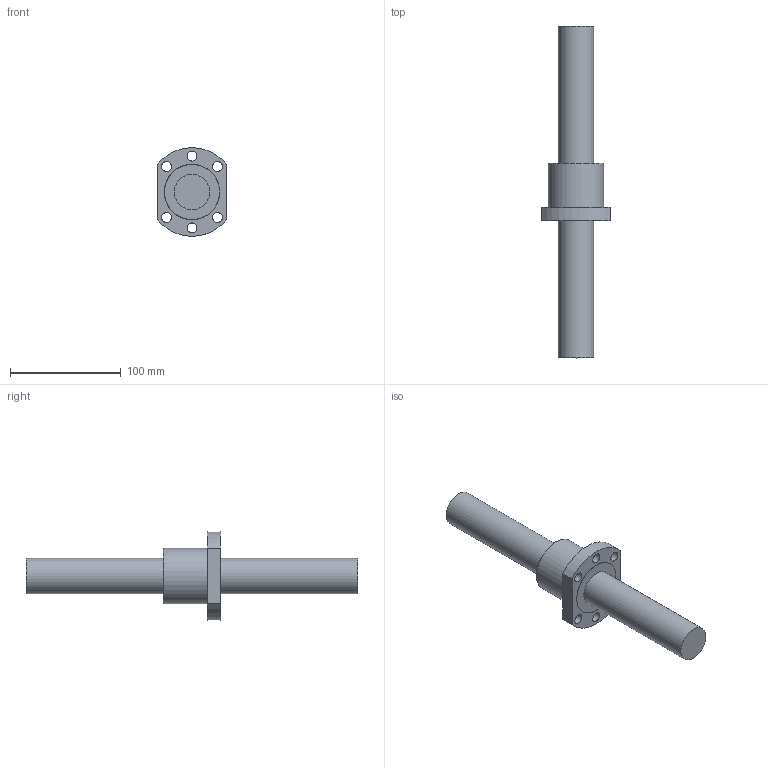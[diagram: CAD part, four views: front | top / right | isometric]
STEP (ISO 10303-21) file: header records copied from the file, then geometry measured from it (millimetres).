
FILE_DESCRIPTION(/* description */ (''),/* implementation_level */ '2;1');
FILE_NAME(/* name */ '3205.stp',/* time_stamp */ '2014-07-11T13:16:32+08:00',/* author */ (''),/* organization */ (''),/* preprocessor_version */ 'ST-DEVELOPER v11',/* originating_system */ 'SIEMENS UGS NX 6.0',/* authorisation */ '');
FILE_SCHEMA (('CONFIG_CONTROL_DESIGN'));
Length unit declared in the file: millimetre
Products named in the file (1): kcc5E5Cj7pw
Bounding box: 62 x 300 x 79.74 mm (x, y, z)
Volume: 325814.8 mm3; surface area: 60662.6 mm2
Topology: 4 solids, 4 shells, 32 faces, 75 edges, 52 vertices
Faces by surface type: cylinder 18, plane 13, torus 1
Full cylindrical faces by diameter (mm): 5 x1, 9 x6, 32 x4, 40 x2, 50 x3
Entity records: 998 total; most frequent: CARTESIAN_POINT 240, DIRECTION 146, ORIENTED_EDGE 96, EDGE_LOOP 70, AXIS2_PLACEMENT_3D 68, FACE_BOUND 64, EDGE_CURVE 48, VERTEX_POINT 42
